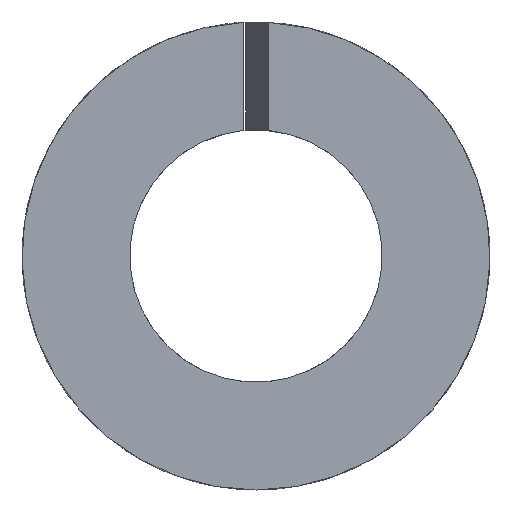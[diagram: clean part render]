
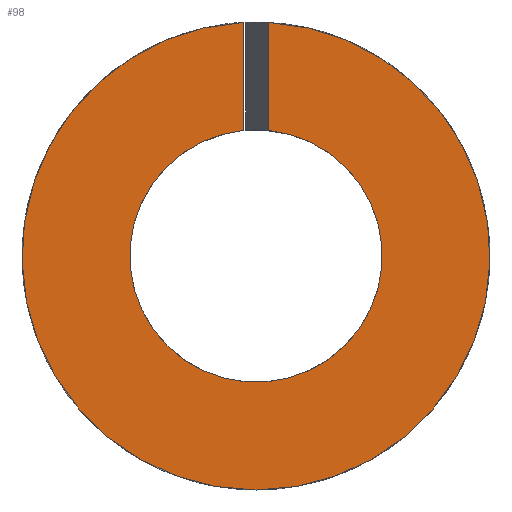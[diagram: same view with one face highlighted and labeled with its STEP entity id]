
A CAD part, left-side view. The second image highlights one B-rep face of the part: STEP entity #98.
In plain terms, the highlighted planar face has unit normal (-1, 0, 0).
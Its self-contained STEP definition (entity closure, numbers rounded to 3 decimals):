
#19=CIRCLE('',#132,2.05);
#20=CIRCLE('',#134,3.8);
#26=FACE_OUTER_BOUND('',#32,.T.);
#32=EDGE_LOOP('',(#85,#86,#87,#88));
#34=LINE('',#179,#38);
#35=LINE('',#185,#39);
#38=VECTOR('',#145,10.);
#39=VECTOR('',#150,10.);
#46=VERTEX_POINT('',#173);
#48=VERTEX_POINT('',#177);
#49=VERTEX_POINT('',#181);
#51=VERTEX_POINT('',#184);
#56=EDGE_CURVE('',#46,#48,#34,.T.);
#58=EDGE_CURVE('',#51,#49,#35,.T.);
#63=EDGE_CURVE('',#49,#46,#19,.T.);
#64=EDGE_CURVE('',#48,#51,#20,.T.);
#85=ORIENTED_EDGE('',*,*,#58,.T.);
#86=ORIENTED_EDGE('',*,*,#63,.T.);
#87=ORIENTED_EDGE('',*,*,#56,.T.);
#88=ORIENTED_EDGE('',*,*,#64,.T.);
#92=PLANE('',#135);
#98=ADVANCED_FACE('',(#26),#92,.T.);
#132=AXIS2_PLACEMENT_3D('',#193,#162,#163);
#134=AXIS2_PLACEMENT_3D('',#195,#166,#167);
#135=AXIS2_PLACEMENT_3D('',#196,#168,#169);
#145=DIRECTION('',(0.,0.,1.));
#150=DIRECTION('',(0.,0.,-1.));
#162=DIRECTION('center_axis',(1.,0.,0.));
#163=DIRECTION('ref_axis',(0.,-1.,0.));
#166=DIRECTION('center_axis',(-1.,0.,0.));
#167=DIRECTION('ref_axis',(0.,-1.,0.));
#168=DIRECTION('center_axis',(-1.,0.,0.));
#169=DIRECTION('ref_axis',(0.,0.,1.));
#173=CARTESIAN_POINT('',(0.,0.2,2.04));
#177=CARTESIAN_POINT('',(0.,0.2,3.795));
#179=CARTESIAN_POINT('',(0.,0.2,0.));
#181=CARTESIAN_POINT('',(0.,-0.2,2.04));
#184=CARTESIAN_POINT('',(0.,-0.2,3.795));
#185=CARTESIAN_POINT('',(0.,-0.2,0.));
#193=CARTESIAN_POINT('Origin',(0.,0.,0.));
#195=CARTESIAN_POINT('Origin',(0.,0.,0.));
#196=CARTESIAN_POINT('Origin',(0.,0.,0.));
